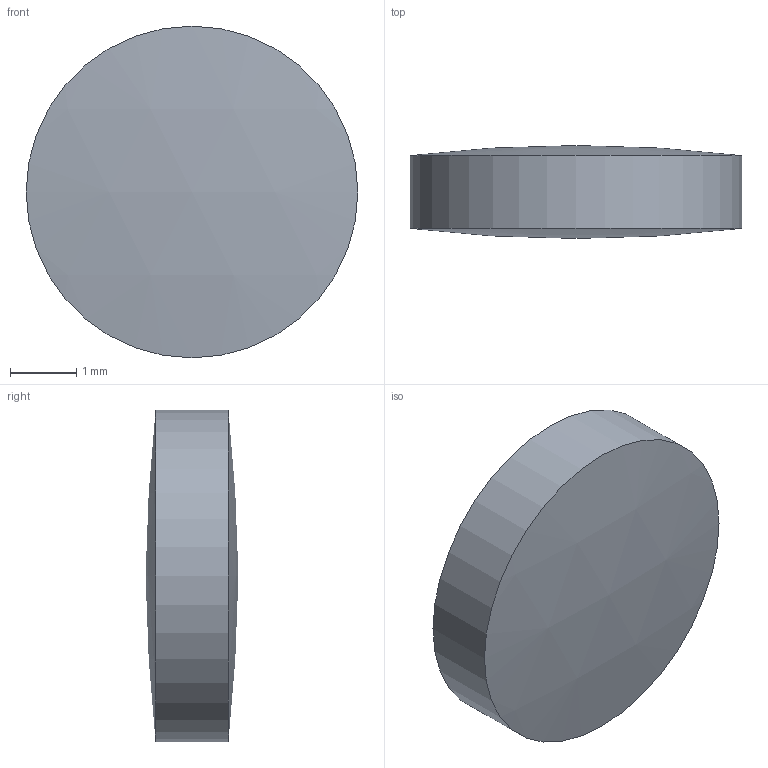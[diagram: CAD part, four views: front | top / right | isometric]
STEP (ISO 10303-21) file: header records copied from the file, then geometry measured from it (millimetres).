
FILE_DESCRIPTION((''),'2;1');
FILE_NAME('T:\Public\7_3次元データ\1図面ﾃﾞｰﾀ\7_素子\レンズ\5_球面両凸レンズ-BK7(SLB-B-P)\SLB-B-P\φ5\SLB-05B-20P\SLB-05B-20P.stp','2009-05-13T08:52:38',('okegawa'),(''),'Autodesk Inventor 2008','Autodesk Inventor 2008','');
FILE_SCHEMA(('AUTOMOTIVE_DESIGN { 1 0 10303 214 1 1 1 1 }'));
Length unit declared in the file: millimetre
Products named in the file (1): SLB-05B-20P
Bounding box: 5 x 1.4 x 5 mm (x, y, z)
Volume: 24.5 mm3; surface area: 56.7 mm2
Topology: 1 solids, 1 shells, 3 faces, 3 edges, 2 vertices
Faces by surface type: sphere 2, cylinder 1
Full cylindrical faces by diameter (mm): 5 x1
Entity records: 80 total; most frequent: DIRECTION 12, CARTESIAN_POINT 8, AXIS2_PLACEMENT_3D 6, ORIENTED_EDGE 4, EDGE_LOOP 4, FACE_OUTER_BOUND 3, ADVANCED_FACE 3, DIMENSIONAL_EXPONENTS 2
